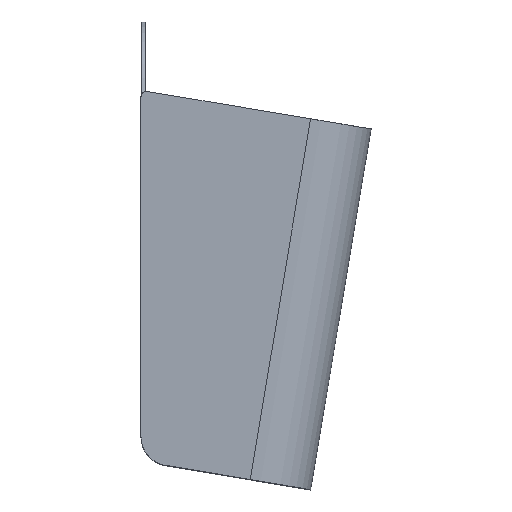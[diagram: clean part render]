
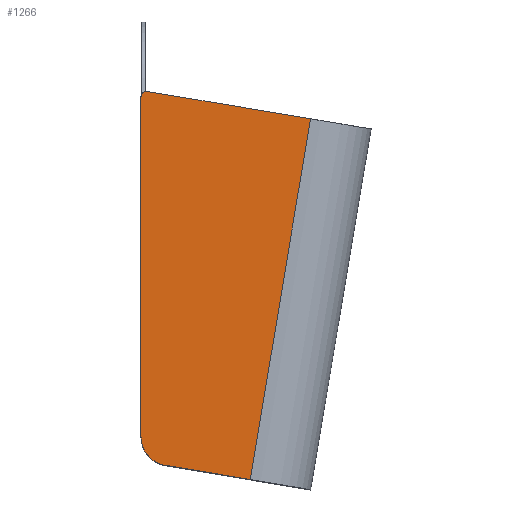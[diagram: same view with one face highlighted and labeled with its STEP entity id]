
A CAD part, top view. The second image highlights one B-rep face of the part: STEP entity #1266.
In plain terms, the highlighted planar face has unit normal (0, 0, 1) as drawn and (-1, 0, 0) by its records, which use the part's own axes.
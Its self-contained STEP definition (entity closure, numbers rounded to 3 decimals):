
#118 = EDGE_CURVE ( 'NONE', #1676, #1889, #2024, .T. ) ;
#145 = VERTEX_POINT ( 'NONE', #2289 ) ;
#153 = LINE ( 'NONE', #2259, #2810 ) ;
#227 = CARTESIAN_POINT ( 'NONE',  ( -1.2, 0., -21.2 ) ) ;
#272 = LINE ( 'NONE', #1641, #2297 ) ;
#320 = VERTEX_POINT ( 'NONE', #2615 ) ;
#459 = ORIENTED_EDGE ( 'NONE', *, *, #1573, .T. ) ;
#469 = DIRECTION ( 'NONE',  ( 0., 0., -1. ) ) ;
#495 = DIRECTION ( 'NONE',  ( -1., 0., 0. ) ) ;
#513 = VECTOR ( 'NONE', #3364, 1000. ) ;
#600 = CARTESIAN_POINT ( 'NONE',  ( -1.2, 124.5, -78.311 ) ) ;
#684 = CARTESIAN_POINT ( 'NONE',  ( -1.2, 124.5, -80.311 ) ) ;
#704 = DIRECTION ( 'NONE',  ( 0., 0., -1. ) ) ;
#739 = CIRCLE ( 'NONE', #2751, 2. ) ;
#776 = PLANE ( 'NONE',  #796 ) ;
#796 = AXIS2_PLACEMENT_3D ( 'NONE', #1051, #1602, #469 ) ;
#903 = ORIENTED_EDGE ( 'NONE', *, *, #1433, .T. ) ;
#916 = EDGE_CURVE ( 'NONE', #145, #3533, #3271, .T. ) ;
#969 = VERTEX_POINT ( 'NONE', #227 ) ;
#972 = DIRECTION ( 'NONE',  ( 0., 0., -1. ) ) ;
#1051 = CARTESIAN_POINT ( 'NONE',  ( -1.2, 0., 0. ) ) ;
#1085 = VECTOR ( 'NONE', #3162, 1000. ) ;
#1124 = ORIENTED_EDGE ( 'NONE', *, *, #118, .T. ) ;
#1157 = EDGE_CURVE ( 'NONE', #1889, #320, #1886, .T. ) ;
#1241 = CARTESIAN_POINT ( 'NONE',  ( -1.2, 124.5, -78.311 ) ) ;
#1266 = ADVANCED_FACE ( 'NONE', ( #1551 ), #776, .F. ) ;
#1281 = LINE ( 'NONE', #1527, #1085 ) ;
#1376 = EDGE_CURVE ( 'NONE', #3533, #1676, #739, .T. ) ;
#1433 = EDGE_CURVE ( 'NONE', #2937, #145, #1281, .T. ) ;
#1527 = CARTESIAN_POINT ( 'NONE',  ( -1.2, 126.5, -95. ) ) ;
#1551 = FACE_OUTER_BOUND ( 'NONE', #1755, .T. ) ;
#1573 = EDGE_CURVE ( 'NONE', #320, #969, #153, .T. ) ;
#1576 = CARTESIAN_POINT ( 'NONE',  ( -1.2, 124.17, -80.283 ) ) ;
#1577 = DIRECTION ( 'NONE',  ( 0., 0., -1. ) ) ;
#1602 = DIRECTION ( 'NONE',  ( 1., 0., 0. ) ) ;
#1641 = CARTESIAN_POINT ( 'NONE',  ( -1.2, 0., -21.2 ) ) ;
#1676 = VERTEX_POINT ( 'NONE', #1576 ) ;
#1734 = CARTESIAN_POINT ( 'NONE',  ( -1.2, -9.686, -57.883 ) ) ;
#1755 = EDGE_LOOP ( 'NONE', ( #903, #2411, #2804, #1124, #3171, #459, #3067 ) ) ;
#1886 = CIRCLE ( 'NONE', #3212, 10. ) ;
#1889 = VERTEX_POINT ( 'NONE', #3363 ) ;
#1986 = CARTESIAN_POINT ( 'NONE',  ( -1.2, 126.5, -21.2 ) ) ;
#2024 = LINE ( 'NONE', #1734, #513 ) ;
#2175 = EDGE_CURVE ( 'NONE', #2937, #969, #272, .T. ) ;
#2259 = CARTESIAN_POINT ( 'NONE',  ( -1.2, 0., -1.2 ) ) ;
#2289 = CARTESIAN_POINT ( 'NONE',  ( -1.2, 126.5, -78.311 ) ) ;
#2297 = VECTOR ( 'NONE', #3558, 1000. ) ;
#2411 = ORIENTED_EDGE ( 'NONE', *, *, #916, .T. ) ;
#2575 = CARTESIAN_POINT ( 'NONE',  ( -1.2, 10., -51.039 ) ) ;
#2615 = CARTESIAN_POINT ( 'NONE',  ( -1.2, 0., -51.039 ) ) ;
#2751 = AXIS2_PLACEMENT_3D ( 'NONE', #1241, #3439, #972 ) ;
#2804 = ORIENTED_EDGE ( 'NONE', *, *, #1376, .T. ) ;
#2810 = VECTOR ( 'NONE', #3366, 1000. ) ;
#2937 = VERTEX_POINT ( 'NONE', #1986 ) ;
#2980 = AXIS2_PLACEMENT_3D ( 'NONE', #600, #495, #1577 ) ;
#3067 = ORIENTED_EDGE ( 'NONE', *, *, #2175, .F. ) ;
#3162 = DIRECTION ( 'NONE',  ( 0., 0., -1. ) ) ;
#3171 = ORIENTED_EDGE ( 'NONE', *, *, #1157, .T. ) ;
#3176 = DIRECTION ( 'NONE',  ( -1., 0., 0. ) ) ;
#3212 = AXIS2_PLACEMENT_3D ( 'NONE', #2575, #3176, #704 ) ;
#3271 = CIRCLE ( 'NONE', #2980, 2. ) ;
#3363 = CARTESIAN_POINT ( 'NONE',  ( -1.2, 8.35, -60.901 ) ) ;
#3364 = DIRECTION ( 'NONE',  ( 0., -0.986, 0.165 ) ) ;
#3366 = DIRECTION ( 'NONE',  ( 0., 0., 1. ) ) ;
#3439 = DIRECTION ( 'NONE',  ( -1., 0., 0. ) ) ;
#3533 = VERTEX_POINT ( 'NONE', #684 ) ;
#3558 = DIRECTION ( 'NONE',  ( 0., -1., 0. ) ) ;
